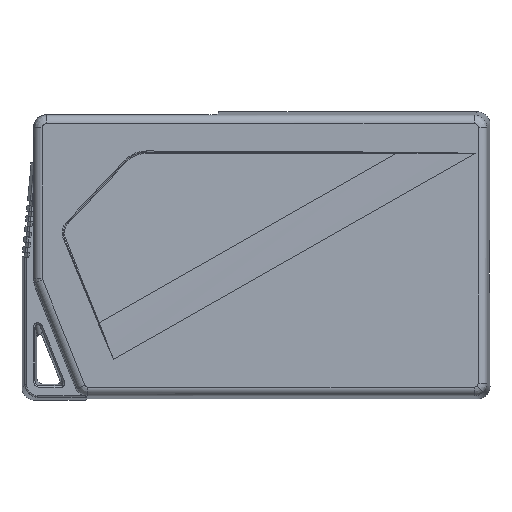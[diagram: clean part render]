
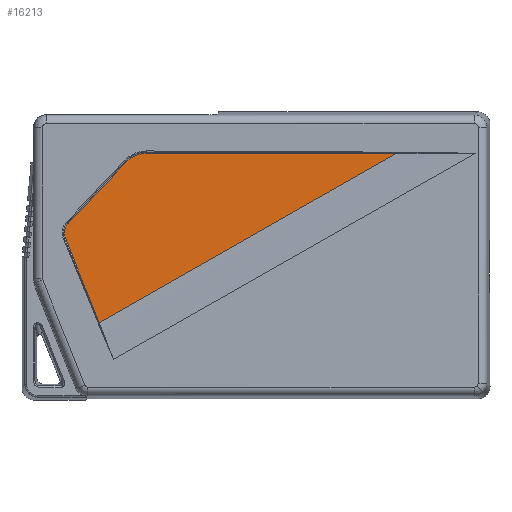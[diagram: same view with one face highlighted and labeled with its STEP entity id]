
A CAD part, front view. The second image highlights one B-rep face of the part: STEP entity #16213.
In plain terms, the highlighted planar face has unit normal (-0.007, -1, 0.012) as drawn and (-1, -0.012, 0.007) by its records, which use the part's own axes.
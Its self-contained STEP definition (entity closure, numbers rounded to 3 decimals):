
#314=B_SPLINE_CURVE_WITH_KNOTS('',3,(#29202,#29203,#29204,#29205,#29206,
#29207,#29208,#29209,#29210,#29211,#29212,#29213,#29214,#29215,#29216),
 .UNSPECIFIED.,.F.,.F.,(4,1,2,2,2,2,2,4),(0.,0.125,0.188,
0.25,0.5,0.719,0.75,
1.),.UNSPECIFIED.);
#315=B_SPLINE_CURVE_WITH_KNOTS('',3,(#29238,#29239,#29240,#29241,#29242,
#29243,#29244,#29245,#29246,#29247,#29248,#29249),.UNSPECIFIED.,.F.,.F.,
(4,2,2,2,2,4),(0.,0.25,0.5,0.625,0.75,1.),.UNSPECIFIED.);
#1332=FACE_OUTER_BOUND('',#2246,.T.);
#2246=EDGE_LOOP('',(#13321,#13322,#13323,#13324,#13325,#13326));
#3629=LINE('',#24618,#5214);
#4153=LINE('',#28626,#5738);
#4156=LINE('',#29197,#5741);
#4157=LINE('',#29219,#5742);
#5214=VECTOR('',#19389,43.602);
#5738=VECTOR('',#20739,59.645);
#5741=VECTOR('',#20766,14.807);
#5742=VECTOR('',#20777,15.922);
#6825=VERTEX_POINT('',#24544);
#6830=VERTEX_POINT('',#24616);
#7326=VERTEX_POINT('',#28625);
#7329=VERTEX_POINT('',#29195);
#7330=VERTEX_POINT('',#29196);
#7331=VERTEX_POINT('',#29201);
#8634=EDGE_CURVE('',#6825,#6830,#3629,.T.);
#9411=EDGE_CURVE('',#6825,#7326,#4153,.T.);
#9422=EDGE_CURVE('',#7329,#7330,#4156,.T.);
#9425=EDGE_CURVE('',#7330,#7331,#314,.T.);
#9427=EDGE_CURVE('',#7331,#7326,#4157,.T.);
#9429=EDGE_CURVE('',#6830,#7329,#315,.T.);
#13321=ORIENTED_EDGE('',*,*,#9427,.T.);
#13322=ORIENTED_EDGE('',*,*,#9411,.F.);
#13323=ORIENTED_EDGE('',*,*,#8634,.T.);
#13324=ORIENTED_EDGE('',*,*,#9429,.T.);
#13325=ORIENTED_EDGE('',*,*,#9422,.T.);
#13326=ORIENTED_EDGE('',*,*,#9425,.T.);
#15466=PLANE('',#17482);
#16213=ADVANCED_FACE('',(#1332),#15466,.T.);
#17482=AXIS2_PLACEMENT_3D('',#29237,#20780,#20781);
#19389=DIRECTION('',(0.007,0.,1.));
#20739=DIRECTION('',(0.,0.495,0.869));
#20766=DIRECTION('',(-0.004,0.727,0.687));
#20777=DIRECTION('',(-0.014,0.929,-0.369));
#20780=DIRECTION('center_axis',(-1.,-0.012,
0.007));
#20781=DIRECTION('ref_axis',(0.012,-1.,0.));
#24544=CARTESIAN_POINT('',(-11.953,7.201,-55.746));
#24616=CARTESIAN_POINT('',(-11.659,7.203,-12.145));
#24618=CARTESIAN_POINT('',(-11.953,7.201,-55.746));
#28625=CARTESIAN_POINT('',(-11.953,36.697,-3.905));
#28626=CARTESIAN_POINT('',(-11.953,7.201,-55.746));
#29195=CARTESIAN_POINT('',(-11.654,8.707,-8.667));
#29196=CARTESIAN_POINT('',(-11.713,19.472,1.5));
#29197=CARTESIAN_POINT('',(-11.654,8.707,-8.667));
#29201=CARTESIAN_POINT('',(-11.738,21.899,1.965));
#29202=CARTESIAN_POINT('Ctrl Pts',(-11.713,19.472,1.5));
#29203=CARTESIAN_POINT('Ctrl Pts',(-11.713,19.55,1.573));
#29204=CARTESIAN_POINT('Ctrl Pts',(-11.714,19.674,1.675));
#29205=CARTESIAN_POINT('Ctrl Pts',(-11.715,19.806,1.762));
#29206=CARTESIAN_POINT('Ctrl Pts',(-11.715,19.897,1.818));
#29207=CARTESIAN_POINT('Ctrl Pts',(-11.716,19.942,1.843));
#29208=CARTESIAN_POINT('Ctrl Pts',(-11.718,20.188,1.971));
#29209=CARTESIAN_POINT('Ctrl Pts',(-11.72,20.399,2.044));
#29210=CARTESIAN_POINT('Ctrl Pts',(-11.724,20.809,2.123));
#29211=CARTESIAN_POINT('Ctrl Pts',(-11.726,21.002,2.135));
#29212=CARTESIAN_POINT('Ctrl Pts',(-11.729,21.224,2.121));
#29213=CARTESIAN_POINT('Ctrl Pts',(-11.73,21.254,2.118));
#29214=CARTESIAN_POINT('Ctrl Pts',(-11.733,21.492,2.095));
#29215=CARTESIAN_POINT('Ctrl Pts',(-11.735,21.699,2.044));
#29216=CARTESIAN_POINT('Ctrl Pts',(-11.738,21.899,1.965));
#29219=CARTESIAN_POINT('',(-11.736,21.754,2.023));
#29237=CARTESIAN_POINT('Origin',(-11.85,21.812,-14.745));
#29238=CARTESIAN_POINT('Ctrl Pts',(-11.659,7.203,-12.145));
#29239=CARTESIAN_POINT('Ctrl Pts',(-11.657,7.203,-11.82));
#29240=CARTESIAN_POINT('Ctrl Pts',(-11.655,7.237,-11.497));
#29241=CARTESIAN_POINT('Ctrl Pts',(-11.652,7.37,-10.859));
#29242=CARTESIAN_POINT('Ctrl Pts',(-11.652,7.468,-10.548));
#29243=CARTESIAN_POINT('Ctrl Pts',(-11.651,7.661,-10.102));
#29244=CARTESIAN_POINT('Ctrl Pts',(-11.651,7.733,-9.957));
#29245=CARTESIAN_POINT('Ctrl Pts',(-11.651,7.891,-9.674));
#29246=CARTESIAN_POINT('Ctrl Pts',(-11.651,7.979,-9.535));
#29247=CARTESIAN_POINT('Ctrl Pts',(-11.651,8.256,-9.137));
#29248=CARTESIAN_POINT('Ctrl Pts',(-11.652,8.468,-8.892));
#29249=CARTESIAN_POINT('Ctrl Pts',(-11.654,8.707,-8.667));
